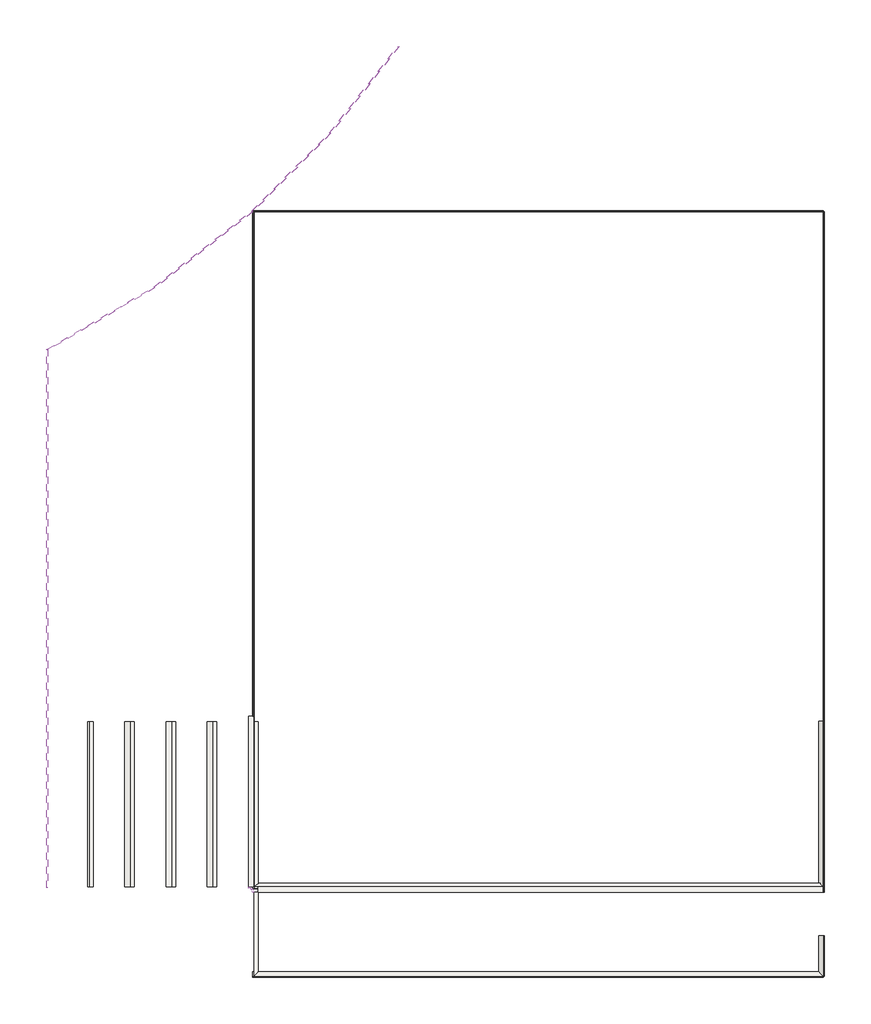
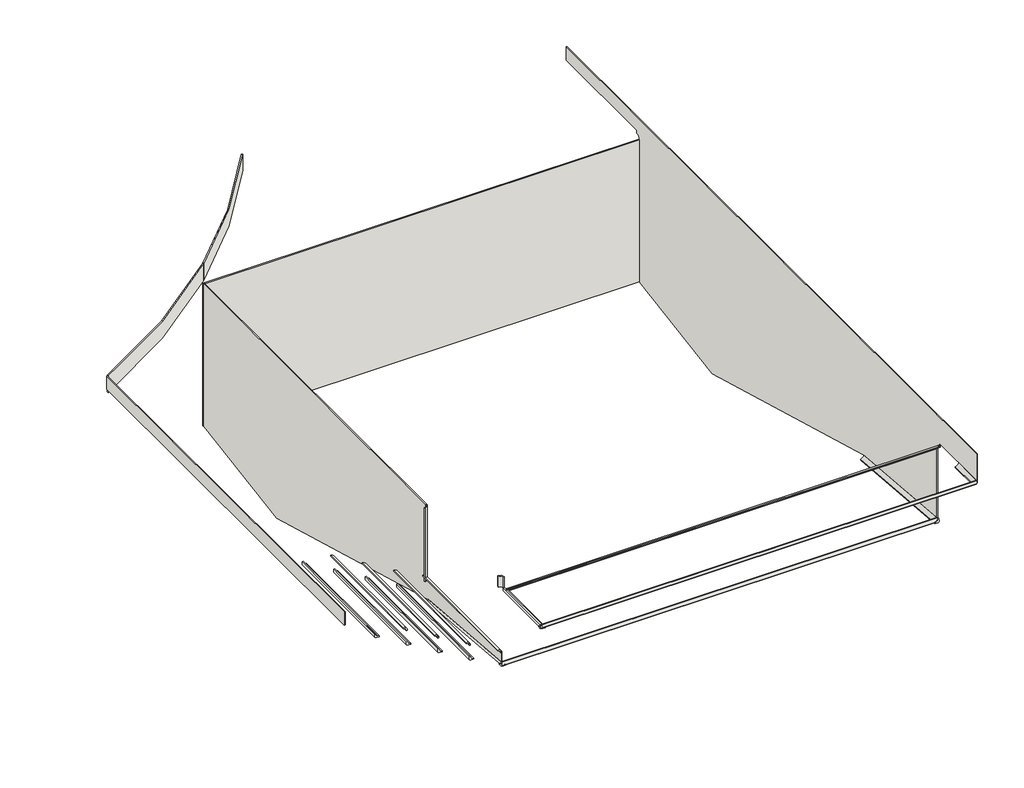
# One storey: 17 slabs, 6 walls.
"""IFC4 building model written with IfcOpenShell, lengths in millimetres."""

from ifc_helpers import new_model, si_unit, point, frame, frame_2d, origin, place, context, project, spatial, polyline, circle_curve, trimmed, segment, composite_curve, outline, extrude, faceted_brep, transform, mapped, element, save
from ifc_brep_helpers import plane_surface, cylinder_surface, revolved_surface, advanced_brep
from components import slab_828ca73b, slab_ec17df41, slab_76489110, slab_9e1d812a, slab_dac9c108, slab_a514d54c, slab_1d4ed46a, slab_e89b6309, slab_eddf93c6, slab_165595c9, slab_6c6facba, slab_60c810ee, slab_1945f17c

model = new_model("IFC4")

# Units and contexts
model_context = context("Model", 3, world=origin())
ifc_project = project(units=[si_unit("LENGTHUNIT", "METRE", prefix="MILLI")], contexts=[model_context])

# Site, building, storey
site = spatial("IfcSite", under=ifc_project)
building = spatial("IfcBuilding", under=site)
storey = spatial("IfcBuildingStorey", under=building, Name="3_NFondo1P1 -1.50", Elevation=-1500.0)

# Slabs
placement = place(None, origin())
slab_shape = slab_828ca73b(model_context)
element("IfcSlab", 1, ObjectType="ROSA GRES_188 : Pieza 188_Serena_Ocra_Anti-Slip", at=placement, inside=storey, context=model_context, shape_type="MappedRepresentation", body=[
    mapped(slab_shape, transform((5131.1161794, 6935.3420135, -339.9734114), x_axis=(1.0, 0.0, 0.0), y_axis=(0.0, 1.0, 0.0), z_axis=(0.0, 0.0, 1.0))),
])
slab_2_shape = slab_ec17df41(model_context)
element("IfcSlab", 2, ObjectType="ROSA GRES_183 : Pieza 183_Serena_Ocra_Anti-Slip", at=placement, inside=storey, context=model_context, shape_type="MappedRepresentation", body=[
    mapped(slab_2_shape, transform((5101.0895909, 8835.3154249, -980.0), x_axis=(0.0, -1.0, 0.0), y_axis=(1.0, 0.0, 0.0), z_axis=(0.0, 0.0, 1.0))),
])
slab_3_shape = slab_76489110(model_context)
element("IfcSlab", 3, ObjectType="ROSA GRES_183 : Pieza 183_Serena_Ocra_Anti-Slip", at=placement, inside=storey, context=model_context, shape_type="MappedRepresentation", body=[
    mapped(slab_3_shape, transform((5101.0895909, 8835.3154249, -240.0), x_axis=(0.0, 0.0, -1.0), y_axis=(0.0, 1.0, 0.0), z_axis=(1.0, 0.0, 0.0))),
])
slab_4_shape = slab_9e1d812a(model_context)
element("IfcSlab", 4, ObjectType="ROSA GRES_188 : Pieza 188_Serena_Ocra_Anti-Slip", at=placement, inside=storey, context=model_context, shape_type="MappedRepresentation", body=[
    mapped(slab_4_shape, transform((5131.1161794, 7555.3420135, -339.9734114), x_axis=(0.0, -1.0, 0.0), y_axis=(1.0, 0.0, 0.0), z_axis=(0.0, 0.0, 1.0))),
])
slab_5_shape = slab_dac9c108(model_context)
element("IfcSlab", 5, ObjectType="ROSA GRES_183 : Pieza 183_Serena_Ocra_Anti-Slip", at=placement, inside=storey, context=model_context, shape_type="MappedRepresentation", body=[
    mapped(slab_5_shape, transform((5101.0895909, 7555.3154249, -192.4157974), x_axis=(0.0, 0.0, -1.0), y_axis=(-1.0, 0.0, 0.0), z_axis=(0.0, 1.0, 0.0))),
])
slab_6_shape = slab_a514d54c(model_context)
element("IfcSlab", 6, ObjectType="ROSA GRES_183 : Pieza 183_Serena_Ocra_Anti-Slip", at=placement, inside=storey, context=model_context, shape_type="MappedRepresentation", body=[
    mapped(slab_6_shape, transform((9292.0630023, 7555.3154249, -370.0), x_axis=(-1.0, 0.0, 0.0), y_axis=(0.0, -1.0, 0.0), z_axis=(0.0, 0.0, 1.0))),
])
slab_7_shape = slab_1d4ed46a(model_context)
element("IfcSlab", 7, ObjectType="ROSA GRES_188 : Pieza 188_Serena_Ocra_Anti-Slip", at=placement, inside=storey, context=model_context, shape_type="MappedRepresentation", body=[
    mapped(slab_7_shape, transform((9286.5895909, 7580.7961219, -1107.4427322), x_axis=(-1.0, 0.0, 0.0), y_axis=(0.0, -0.9963831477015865, 0.08497424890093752), z_axis=(0.0, 0.08497424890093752, 0.9963831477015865))),
])
slab_8_shape = slab_e89b6309(model_context)
element("IfcSlab", 8, ObjectType="ROSA GRES_188 : Pieza 188_Serena_Ocra_Anti-Slip", at=placement, inside=storey, context=model_context, shape_type="MappedRepresentation", body=[
    mapped(slab_8_shape, transform((9292.0630023, 7237.8345968, -339.9734114), x_axis=(0.0, -1.0, 0.0), y_axis=(0.0, 0.0, 1.0), z_axis=(-1.0, 0.0, 0.0))),
])
slab_9_shape = slab_eddf93c6(model_context)
element("IfcSlab", 9, ObjectType="ROSA GRES_188 : Pieza 188_Serena_Ocra_Anti-Slip", at=placement, inside=storey, context=model_context, shape_type="MappedRepresentation", body=[
    mapped(slab_9_shape, transform((9292.0630023, 8797.1717403, -1210.1626744), x_axis=(0.0, -0.9965457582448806, 0.08304547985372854), y_axis=(0.0, 0.08304547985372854, 0.9965457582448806), z_axis=(-1.0, 0.0, 0.0))),
])
slab_10_shape = slab_165595c9(model_context)
element("IfcSlab", 10, ObjectType="ROSA GRES_188 : Pieza 188_Serena_Ocra_Anti-Slip", at=placement, inside=storey, context=model_context, shape_type="MappedRepresentation", body=[
    mapped(slab_10_shape, transform((5131.1161794, 8793.7800607, -1209.8786747), x_axis=(0.0, -0.9963831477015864, 0.08497424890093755), y_axis=(1.0, 0.0, 0.0), z_axis=(0.0, 0.08497424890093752, 0.9963831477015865))),
])
slab_11_shape = slab_6c6facba(model_context)
element("IfcSlab", 11, ObjectType="ROSA GRES_188 : Pieza 188_Serena_Ocra_Anti-Slip", at=placement, inside=storey, context=model_context, shape_type="MappedRepresentation", body=[
    mapped(slab_11_shape, transform((4531.1161794, 8795.3154249, -769.9734114), x_axis=(0.0, -1.0, 0.0), y_axis=(1.0, 0.0, 0.0), z_axis=(0.0, 0.0, 1.0))),
])
slab_12_shape = slab_60c810ee(model_context)
element("IfcSlab", 12, ObjectType="ROSA GRES_188 : Pieza 188_Serena_Ocra_Anti-Slip", at=placement, inside=storey, context=model_context, shape_type="MappedRepresentation", body=[
    mapped(slab_12_shape, transform((4831.1161794, 8795.3154249, -949.9734114), x_axis=(0.0, -1.0, 0.0), y_axis=(0.0, 0.0, -1.0), z_axis=(1.0, 0.0, 0.0))),
])
element("IfcSlab", 13, ObjectType="ROSA GRES_188 : Pieza 188_Serena_Ocra_Anti-Slip", at=placement, inside=storey, context=model_context, shape_type="MappedRepresentation", body=[
    mapped(slab_12_shape, transform((4231.1161794, 8795.3154249, -589.9734114), x_axis=(0.0, -1.0, 0.0), y_axis=(0.0, 0.0, -1.0), z_axis=(1.0, 0.0, 0.0))),
])
element("IfcSlab", 14, ObjectType="ROSA GRES_188 : Pieza 188_Serena_Ocra_Anti-Slip", at=placement, inside=storey, context=model_context, shape_type="MappedRepresentation", body=[
    mapped(slab_12_shape, transform((3931.1161794, 8795.3154249, -409.9734114), x_axis=(0.0, -1.0, 0.0), y_axis=(0.0, 0.0, -1.0), z_axis=(1.0, 0.0, 0.0))),
])
slab_13_shape = slab_1945f17c(model_context)
element("IfcSlab", 15, ObjectType="ROSA GRES_183 : Pieza 183_Serena_Ocra_Anti-Slip", at=placement, inside=storey, context=model_context, shape_type="MappedRepresentation", body=[
    mapped(slab_13_shape, transform((4201.0895909, 8795.3154249, -440.0), x_axis=(0.0, -1.0, 0.0), y_axis=(0.0, 0.0, -1.0), z_axis=(1.0, 0.0, 0.0))),
])
element("IfcSlab", 16, ObjectType="ROSA GRES_183 : Pieza 183_Serena_Ocra_Anti-Slip", at=placement, inside=storey, context=model_context, shape_type="MappedRepresentation", body=[
    mapped(slab_13_shape, transform((4501.0895909, 7595.3154249, -620.0), x_axis=(0.0, 1.0, 0.0), y_axis=(-1.0, 0.0, 0.0), z_axis=(0.0, 0.0, 1.0))),
])
element("IfcSlab", 17, ObjectType="ROSA GRES_183 : Pieza 183_Serena_Ocra_Anti-Slip", at=placement, inside=storey, context=model_context, shape_type="MappedRepresentation", body=[
    mapped(slab_13_shape, transform((4801.0895909, 8795.3154249, -800.0), x_axis=(0.0, -1.0, 0.0), y_axis=(0.0, 0.0, -1.0), z_axis=(1.0, 0.0, 0.0))),
])

# Walls
element("IfcWall", 18, ObjectType="Pieza 316_Patrón 1/3_Serena_Ocra_Anti-Slip", at=placement, inside=storey, context=model_context, shape_type="Brep", body=[
    faceted_brep([(5132.0895909, 12501.9503074, -1671.050455), (5132.0895909, 11297.0052593, -1869.2917305), (5132.0895909, 8800.6582519, -1170.3145684), (5132.0895909, 7595.3154249, -1070.242938), (5132.0895909, 7595.3154249, -1068.4348895), (5132.0895909, 7595.3154249, -980.0), (5132.0895909, 8835.3154249, -980.0), (5132.0895909, 8835.3154249, -240.0), (5132.0895909, 12501.9503074, -240.0), (5141.0895909, 12501.9503074, -1671.050455), (5141.0895909, 12501.9503074, -240.0), (5141.0895909, 8835.3154249, -240.0), (5141.0895909, 8835.3154249, -980.0), (5141.0895909, 7595.3154249, -980.0), (5141.0895909, 7595.3154249, -1070.242938), (5141.0895909, 8800.6582519, -1170.3145684), (5141.0895909, 11297.0052593, -1869.2917305)], [[[0, 1, 2, 3, 4, 5, 6, 7, 8]], [[9, 10, 11, 12, 13, 14, 15, 16]], [[7, 6, 12, 11]], [[8, 7, 11, 10]], [[1, 0, 9, 16]], [[2, 1, 16, 15]], [[3, 2, 15, 14]], [[6, 5, 13, 12]], [[0, 8, 10, 9]], [[5, 4, 3, 14, 13]]]),
])
element("IfcWall", 19, ObjectType="Pieza 316_Patrón 1/3_Serena_Ocra_Anti-Slip", at=placement, inside=storey, context=model_context, shape_type="AdvancedBrep", body=[
    advanced_brep(
    [(9282.0895909, 13704.3154249, -35.6923626), (9282.0895909, 13704.3154249, -37.4687777), (9282.0895909, 13704.3154249, -169.9734114), (9282.0895909, 12541.9403617, -169.9734114), (9282.0895909, 12541.9403617, -199.9999951), (9282.0895909, 12501.9503074, -239.1078369), (9282.0895909, 12501.9503074, -1671.7908089), (9282.0895909, 11301.5052593, -1869.2917305), (9282.0895909, 8805.1582519, -1170.3145684), (9282.0895909, 7595.3154249, -1069.4943328), (9282.0895909, 7595.3154249, -370.0), (9282.0895909, 7555.3154249, -330.0), (9282.0895909, 7555.3154249, -299.9734114), (9282.0895909, 6940.8154249, -299.9734114), (9282.0895909, 6940.8154249, -35.6923626), (9291.0895909, 13704.3154249, -35.6923626), (9291.0895909, 6940.8154249, -35.6923626), (9291.0895909, 6940.8154249, -299.9734114), (9291.0895909, 7555.3154249, -299.9734114), (9291.0895909, 7555.3154249, -330.0), (9291.0895909, 7595.3154249, -370.0), (9291.0895909, 7595.3154249, -1069.4943328), (9291.0895909, 8805.1582519, -1170.3145684), (9291.0895909, 11301.5052593, -1869.2917305), (9291.0895909, 12501.9503074, -1671.7908089), (9291.0895909, 12501.9503074, -239.1078369), (9291.0895909, 12541.9403617, -199.9999951), (9291.0895909, 12541.9403617, -169.9734114), (9291.0895909, 13704.3154249, -169.9734114)],
    [
        (0, 1),
        (1, 2),
        (2, 3),
        (3, 4),
        (4, 5, circle_curve(frame((9282.0895909, 12541.9403617, -240.0), z_axis=(1.0, 0.0, 0.0), x_axis=(0.0, 1.0, 0.0)), 40.0000049)),
        (5, 6),
        (6, 7),
        (7, 8),
        (8, 9),
        (9, 10),
        (10, 11, circle_curve(frame((9282.0895909, 7555.3154249, -370.0), z_axis=(1.0, 0.0, 0.0), x_axis=(0.0, 1.0, 0.0)), 40.0)),
        (11, 12),
        (12, 13),
        (13, 14),
        (14, 0),
        (15, 16),
        (16, 17),
        (17, 18),
        (18, 19),
        (19, 20, circle_curve(frame((9291.0895909, 7555.3154249, -370.0), z_axis=(-1.0, 0.0, 0.0), x_axis=(0.0, 1.0, 0.0)), 40.0)),
        (20, 21),
        (21, 22),
        (22, 23),
        (23, 24),
        (24, 25),
        (25, 26, circle_curve(frame((9291.0895909, 12541.9403617, -240.0), z_axis=(-1.0, 0.0, 0.0), x_axis=(0.0, 1.0, 0.0)), 40.0000049)),
        (26, 27),
        (27, 28),
        (28, 15),
        (14, 16),
        (15, 0),
        (2, 28),
        (27, 3),
        (6, 24),
        (23, 7),
        (22, 8),
        (21, 9),
        (12, 18),
        (17, 13),
        (20, 10),
        (19, 11),
        (5, 25),
        (26, 4),
    ],
    [
        plane_surface(frame((9282.0895909, 13699.8154249, -200.0), z_axis=(-1.0, 0.0, 0.0), x_axis=(0.0, 0.0, -1.0))),
        plane_surface(frame((9291.0895909, 13699.8154249, -200.0), z_axis=(1.0, 0.0, 0.0), x_axis=(0.0, 0.0, 1.0))),
        plane_surface(frame((9282.0895909, 6940.8154249, -35.6923626), z_axis=(0.0, 0.0, 1.0), x_axis=(1.0, 0.0, 0.0))),
        plane_surface(frame((9282.0895909, 13699.8154249, -169.9734114), z_axis=(0.0, 0.0, -1.0), x_axis=(1.0, 0.0, 0.0))),
        plane_surface(frame((9282.0895909, 12506.4503074, -1671.050455), z_axis=(0.0, 0.16234064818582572, -0.9867347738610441), x_axis=(1.0, 0.0, 0.0))),
        plane_surface(frame((9282.0895909, 11301.5052593, -1869.2917305), z_axis=(0.0, -0.2696299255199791, -0.9629640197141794), x_axis=(1.0, 0.0, 0.0))),
        plane_surface(frame((9282.0895909, 8805.1582519, -1170.3145684), z_axis=(0.0, -0.08304547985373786, -0.9965457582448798), x_axis=(1.0, 0.0, 0.0))),
        plane_surface(frame((9282.0895909, 7555.3154249, -299.9734114), z_axis=(0.0, 0.0, -1.0), x_axis=(1.0, 0.0, 0.0))),
        plane_surface(frame((9282.0895909, 6940.8154249, -299.9734114), z_axis=(0.0, -1.0, 0.0), x_axis=(1.0, 0.0, 0.0))),
        plane_surface(frame((9291.0895909, 13704.3154249, -173.3982404), z_axis=(0.0, 1.0, 0.0), x_axis=(-1.0, 0.0, 0.0))),
        plane_surface(frame((5136.5895909, 7595.3154249, -1068.4348895), z_axis=(0.0, -1.0, 0.0), x_axis=(-1.0, 0.0, 0.0))),
        revolved_surface(polyline([(9291.0895909, 7595.3154249, -370.0), (9282.0895909, 7595.3154249, -370.0)]), (9291.0895909, 7555.3154249, -370.0), (1.0, 0.0, 0.0)),
        plane_surface(frame((9282.0895909, 7555.3154249, -330.0), z_axis=(0.0, -1.0, -1.4064807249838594e-12), x_axis=(1.0, 0.0, 0.0))),
        plane_surface(frame((9291.0895909, 12501.9503074, -1671.1394683), z_axis=(0.0, 1.0, 0.0), x_axis=(1.0, 0.0, 0.0))),
        plane_surface(frame((9282.0895909, 12541.9403617, -169.9734114), z_axis=(0.0, 1.0, 0.0), x_axis=(1.0, 0.0, 0.0))),
        revolved_surface(polyline([(9291.0895909, 12581.9403666, -240.0), (9282.0895909, 12581.9403666, -240.0)]), (9291.0895909, 12541.9403617, -240.0), (1.0, 0.0, 0.0)),
    ],
    [
        (0, [[1, 2, 3, 4, 5, 6, 7, 8, 9, 10, 11, 12, 13, 14, 15]]),
        (1, [[16, 17, 18, 19, 20, 21, 22, 23, 24, 25, 26, 27, 28, 29]]),
        (2, [[-15, 30, -16, 31]]),
        (3, [[-3, 32, -28, 33]]),
        (4, [[-7, 34, -24, 35]]),
        (5, [[-8, -35, -23, 36]]),
        (6, [[-9, -36, -22, 37]]),
        (7, [[-13, 38, -18, 39]]),
        (8, [[-14, -39, -17, -30]]),
        (9, [[-2, -1, -31, -29, -32]]),
        (10, [[-10, -37, -21, 40]]),
        (11, [[-11, -40, -20, 41]]),
        (12, [[-12, -41, -19, -38]]),
        (13, [[-6, 42, -25, -34]]),
        (14, [[-4, -33, -27, 43]]),
        (15, [[-5, -43, -26, -42]]),
    ],
),
])
element("IfcWall", 20, ObjectType="Pieza 316_Patrón 1/3_Serena_Ocra_Anti-Slip", at=placement, inside=storey, context=model_context, shape_type="SweptSolid", body=[
    extrude(outline(composite_curve([segment(polyline([(3632.0895909, 7586.3154249), (3632.0895909, 11500.8932188)]), True, "CONTINUOUS"), segment(trimmed(circle_curve(frame_2d((613.1221589, 17582.8458574)), 6790.0156299), [point((3632.0895909, 11500.8932188))], [point((3641.0895909, 11505.3689562))], True, "CARTESIAN"), True, "CONTINUOUS"), segment(polyline([(3641.0895909, 11505.3689562), (3641.0895909, 7586.3154249), (3632.0895909, 7586.3154249)]), True, "CONTINUOUS")], self_intersect=False)), frame((0.0, 0.0, -169.9734114), z_axis=(0.0, 0.0, 1.0), x_axis=(1.0, 0.0, 0.0)), (0.0, 0.0, 1.0), 132.9734114),
])
element("IfcWall", 21, ObjectType="Pieza 316_Patrón 1/3_Serena_Ocra_Anti-Slip", at=placement, inside=storey, context=model_context, shape_type="AdvancedBrep", body=[
    advanced_brep(
    [(3641.0895909, 11495.3154249, -35.0324196), (5132.267636, 12503.0882164, -35.0324196), (5126.2855481, 12509.8123984, -35.0324196), (3641.0895909, 11505.3689562, -35.0324196), (3641.0895909, 11495.3154249, -202.1619565), (3641.0895909, 11505.3689562, -202.1619565), (5126.2855481, 12509.8123984, -202.1619565), (5132.267636, 12503.0882164, -202.1619565), (5132.267636, 12503.0882164, -35.6049844), (5126.2855481, 12509.8123984, -35.6049844), (3641.0895909, 11505.3689562, -169.9734114), (3641.0895909, 11505.3689562, -37.0)],
    [
        (0, 1, circle_curve(frame((613.1221589, 17582.8458574, -35.0324196), z_axis=(0.0, 0.0, 1.0), x_axis=(1.0, 0.0, 0.0)), 6799.0156299)),
        (1, 2),
        (2, 3, circle_curve(frame((613.1221589, 17582.8458574, -35.0324196), z_axis=(0.0, 0.0, -1.0), x_axis=(1.0, 0.0, 0.0)), 6790.0156299)),
        (3, 0),
        (4, 5),
        (5, 6, circle_curve(frame((613.1221589, 17582.8458574, -202.1619565), z_axis=(0.0, 0.0, 1.0), x_axis=(1.0, 0.0, 0.0)), 6790.0156299)),
        (6, 7),
        (7, 4, circle_curve(frame((613.1221589, 17582.8458574, -202.1619565), z_axis=(0.0, 0.0, -1.0), x_axis=(1.0, 0.0, 0.0)), 6799.0156299)),
        (0, 4),
        (7, 8),
        (8, 1),
        (6, 9),
        (9, 2),
        (5, 10),
        (10, 11),
        (11, 3),
    ],
    [
        plane_surface(frame((7412.1377888, 17582.8458574, -35.0324196), z_axis=(0.0, 0.0, 1.0), x_axis=(0.0, 1.0, 0.0))),
        plane_surface(frame((7412.1377888, 17582.8458574, -202.1619565), z_axis=(0.0, 0.0, -1.0), x_axis=(0.0, -1.0, 0.0))),
        cylinder_surface(frame((613.1221589, 17582.8458574, -202.1619565), z_axis=(0.0, 0.0, 1.0), x_axis=(1.0, 0.0, 0.0)), 6799.0156299),
        plane_surface(frame((5132.267636, 12503.0882164, -35.0324196), z_axis=(0.7471313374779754, 0.6646764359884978, 0.0), x_axis=(0.0, 0.0, -1.0))),
        revolved_surface(polyline([(7403.1377888, 17582.8458574, -202.1619565), (7403.1377888, 17582.8458574, -35.0324196)]), (613.1221589, 17582.8458574, -202.1619565), (0.0, 0.0, -1.0)),
        plane_surface(frame((3641.0895909, 11495.3154249, -169.9734114), z_axis=(-1.0, 0.0, 0.0), x_axis=(0.0, 1.0, 0.0))),
    ],
    [
        (0, [[1, 2, 3, 4]]),
        (1, [[5, 6, 7, 8]]),
        (2, [[-1, 9, -8, 10, 11]]),
        (3, [[-2, -11, -10, -7, 12, 13]]),
        (4, [[-3, -13, -12, -6, 14, 15, 16]]),
        (5, [[-4, -16, -15, -14, -5, -9]]),
    ],
),
])
element("IfcWall", 22, ObjectType="Pieza 316_Patrón 1/3_Serena_Ocra_Anti-Slip", at=placement, inside=storey, context=model_context, shape_type="AdvancedBrep", body=[
    advanced_brep(
    [(5132.267636, 12503.0882164, -35.6049844), (6197.3513107, 13704.3154249, -35.6049844), (6186.389956, 13704.3154249, -35.6049844), (5126.2855481, 12509.8123984, -35.6049844), (5132.267636, 12503.0882164, -203.3985869), (5126.2855481, 12509.8123984, -203.3985869), (6186.389956, 13704.3154249, -203.3985869), (6197.3513107, 13704.3154249, -203.3985869), (5132.267636, 12503.0882164, -202.1619565), (6197.3513107, 13704.3154249, -173.3982404), (6197.3513107, 13704.3154249, -37.4687777), (5126.2855481, 12509.8123984, -202.1619565)],
    [
        (0, 1, circle_curve(frame((613.1221589, 17582.8458574, -35.6049844), z_axis=(0.0, 0.0, 1.0), x_axis=(1.0, 0.0, 0.0)), 6799.0156299)),
        (1, 2),
        (2, 3, circle_curve(frame((613.1221589, 17582.8458574, -35.6049844), z_axis=(0.0, 0.0, -1.0), x_axis=(1.0, 0.0, 0.0)), 6790.0156299)),
        (3, 0),
        (4, 5),
        (5, 6, circle_curve(frame((613.1221589, 17582.8458574, -203.3985869), z_axis=(0.0, 0.0, 1.0), x_axis=(1.0, 0.0, 0.0)), 6790.0156299)),
        (6, 7),
        (7, 4, circle_curve(frame((613.1221589, 17582.8458574, -203.3985869), z_axis=(0.0, 0.0, -1.0), x_axis=(1.0, 0.0, 0.0)), 6799.0156299)),
        (0, 8),
        (8, 4),
        (7, 9),
        (9, 10),
        (10, 1),
        (2, 6),
        (5, 11),
        (11, 3),
    ],
    [
        plane_surface(frame((7412.1377888, 17582.8458574, -35.6049844), z_axis=(0.0, 0.0, 1.0), x_axis=(0.0, 1.0, 0.0))),
        plane_surface(frame((7412.1377888, 17582.8458574, -203.3985869), z_axis=(0.0, 0.0, -1.0), x_axis=(0.0, -1.0, 0.0))),
        cylinder_surface(frame((613.1221589, 17582.8458574, -203.3985869), z_axis=(0.0, 0.0, 1.0), x_axis=(1.0, 0.0, 0.0)), 6799.0156299),
        revolved_surface(polyline([(7403.1377888, 17582.8458574, -203.3985869), (7403.1377888, 17582.8458574, -35.604984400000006)]), (613.1221589, 17582.8458574, -203.3985869), (0.0, 0.0, -1.0)),
        plane_surface(frame((5126.2855481, 12509.8123984, -35.6049844), z_axis=(-0.7471313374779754, -0.6646764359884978, 0.0), x_axis=(0.0, 0.0, -1.0))),
        plane_surface(frame((9291.0895909, 13704.3154249, -173.3982404), z_axis=(0.0, 1.0, 0.0), x_axis=(-1.0, 0.0, 0.0))),
    ],
    [
        (0, [[1, 2, 3, 4]]),
        (1, [[5, 6, 7, 8]]),
        (2, [[-1, 9, 10, -8, 11, 12, 13]]),
        (3, [[-3, 14, -6, 15, 16]]),
        (4, [[-4, -16, -15, -5, -10, -9]]),
        (5, [[-2, -13, -12, -11, -7, -14]]),
    ],
),
])
element("IfcWall", 23, ObjectType="Pieza 316_Patrón 1/3_Serena_Ocra_Anti-Slip", at=placement, inside=storey, context=model_context, shape_type="Brep", body=[
    faceted_brep([(5129.2765921, 12501.9503074, -1671.1394683), (9282.0895909, 12501.9503074, -1671.1394683), (9282.0895909, 12501.9503074, -240.0), (5141.0895909, 12501.9503074, -240.0), (5132.0895909, 12501.9503074, -240.0), (5129.2765921, 12501.9503074, -240.0), (5129.2765921, 12510.9503074, -1671.1394683), (5129.2765921, 12510.9503074, -240.0), (9282.0895909, 12510.9503074, -240.0), (9282.0895909, 12510.9503074, -1671.1394683)], [[[0, 1, 2, 3, 4, 5]], [[6, 7, 8, 9]], [[1, 0, 6, 9]], [[2, 1, 9, 8]], [[5, 4, 3, 2, 8, 7]], [[0, 5, 7, 6]]]),
])

save(model, "model.ifc")
